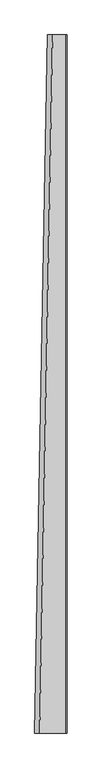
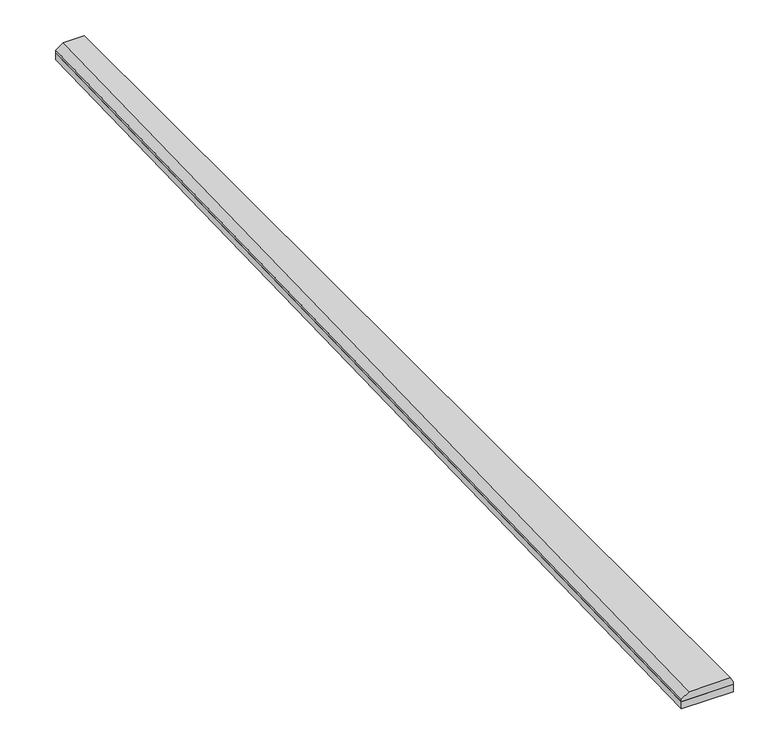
"""IFC4 building model written with IfcOpenShell, lengths in millimetres: proxy geometry, Spinneybeck_ARO Plank 3 : A' - Top 3” x Bottom 5”."""

from ifc_helpers import new_model, si_unit, origin, origin_with_axes, place, context, project, spatial, polyline, outline, extrude, faceted_brep, source, transform, mapped, element, save


def specialty_equipment_829ac422(model_context):
    return source(origin(), model_context, "Body", "SolidModel", [
        faceted_brep([(57.15, 0.0, 38.1), (-44.45, 0.0, 38.1), (-63.5, 0.0, 25.4), (-63.5, 0.0, 19.05), (63.5, 0.0, 19.05), (63.5, 0.0, 25.4), (57.15, 2743.2, 38.1), (63.5, 2743.2, 25.4), (63.5, 2743.2, 19.05), (-12.7, 2743.2, 19.05), (-12.7, 2743.2, 25.4), (6.35, 2743.2, 38.1)], [[[0, 1, 2, 3, 4, 5]], [[6, 7, 8, 9, 10, 11]], [[6, 11, 1, 0]], [[11, 10, 2, 1]], [[10, 9, 3, 2]], [[9, 8, 4, 3]], [[8, 7, 5, 4]], [[7, 6, 0, 5]]]),
        extrude(outline(polyline([(-12.7, 2743.2), (63.5, 2743.2), (63.5, 0.0), (-63.5, 0.0), (-12.7, 2743.2)])), origin_with_axes(), (0.0, 0.0, 1.0), 19.05),
    ])


if __name__ == "__main__":
    model = new_model("IFC4")
    model_context = context("Model", 3, world=origin())
    ifc_project = project(units=[si_unit("LENGTHUNIT", "METRE", prefix="MILLI")], contexts=[model_context])
    site = spatial("IfcSite", under=ifc_project)
    building = spatial("IfcBuilding", under=site)
    placement = place(None, origin())
    specialty_equipment_shape = specialty_equipment_829ac422(model_context)
    element("IfcBuildingElementProxy", 1, Name="Spinneybeck_ARO Plank 3 : A' - Top 3” x Bottom 5”", ObjectType="Spinneybeck_ARO Plank 3 : A' - Top 3” x Bottom 5”", at=placement, inside=building, context=model_context, shape_type="MappedRepresentation", body=[
        mapped(specialty_equipment_shape, transform((0.0, 0.0, 0.0), x_axis=(1.0, 0.0, 0.0), y_axis=(0.0, 1.0, 0.0), z_axis=(0.0, 0.0, 1.0))),
    ])
    save(model, "model.ifc")
